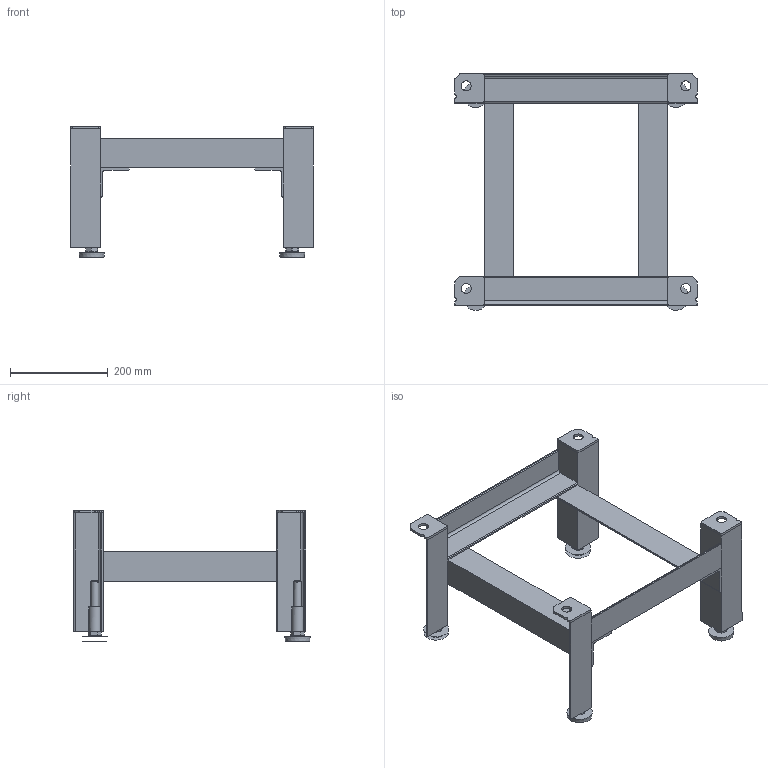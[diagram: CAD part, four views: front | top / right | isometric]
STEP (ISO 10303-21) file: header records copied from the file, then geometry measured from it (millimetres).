
FILE_DESCRIPTION(/* description */ (''),/* implementation_level */ '2;1');
FILE_NAME(/* name */ 'C:\ADSK_DM_WS\CAD_3D\06 Spezialprojekte\Verkleidung\Zeichnungen\Traggestell 56.stp',/* time_stamp */ '2021-11-25T09:23:57+01:00',/* author */ ('CPI'),/* organization */ (''),/* preprocessor_version */ 'ST-DEVELOPER v18.1',/* originating_system */ 'Autodesk Inventor 2022',/* authorisation */ '');
FILE_SCHEMA (('AUTOMOTIVE_DESIGN { 1 0 10303 214 3 1 1 }'));
Length unit declared in the file: millimetre
Products named in the file (1): 2021-03519
Bounding box: 497 x 484.72 x 269 mm (x, y, z)
Volume: 1840691.9 mm3; surface area: 669192.6 mm2
Topology: 1 solids, 1 shells, 372 faces, 972 edges, 612 vertices
Faces by surface type: plane 204, cylinder 104, cone 64
Full cylindrical faces by diameter (mm): 16 x4, 17 x4, 20.5 x4, 30 x4
Entity records: 11906 total; most frequent: CARTESIAN_POINT 2621, ORIENTED_EDGE 1960, DIRECTION 1866, EDGE_CURVE 980, AXIS2_PLACEMENT_3D 673, VERTEX_POINT 612, LINE 520, VECTOR 520
